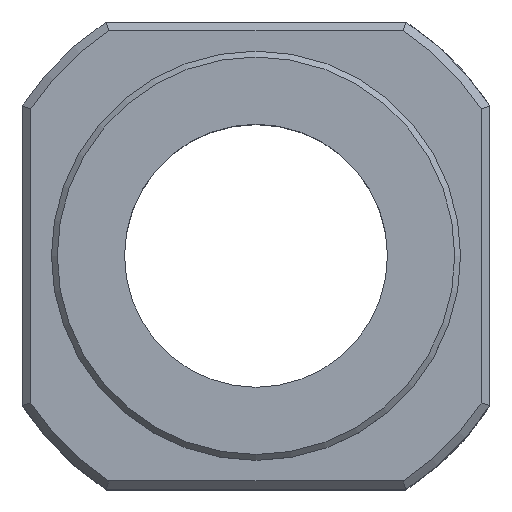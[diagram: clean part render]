
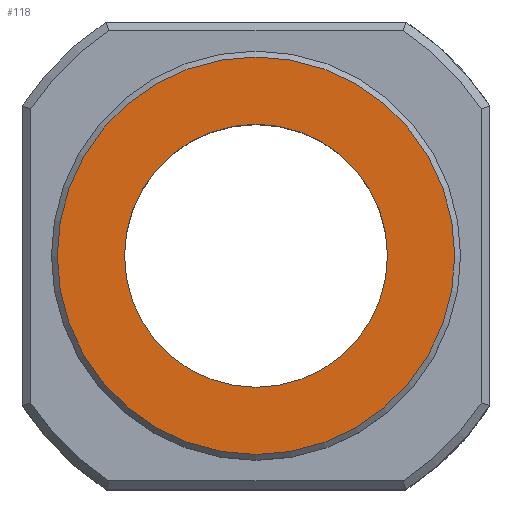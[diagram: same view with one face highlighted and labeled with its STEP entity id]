
A CAD part, top view. The second image highlights one B-rep face of the part: STEP entity #118.
In plain terms, the highlighted planar face has unit normal (0, 0, 1).
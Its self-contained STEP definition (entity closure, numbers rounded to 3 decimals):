
#118=ADVANCED_FACE('',(#246,#247),#248,.T.);
#246=FACE_OUTER_BOUND('',#439,.T.);
#247=FACE_BOUND('',#440,.T.);
#248=PLANE('',#441);
#439=EDGE_LOOP('',(#687));
#440=EDGE_LOOP('',(#688));
#441=AXIS2_PLACEMENT_3D('',#689,#690,#691);
#687=ORIENTED_EDGE('',*,*,#758,.T.);
#688=ORIENTED_EDGE('',*,*,#720,.T.);
#689=CARTESIAN_POINT('',(22.177,-7.456,12.518));
#690=DIRECTION('',(0.0,0.0,1.0));
#691=DIRECTION('',(1.0,0.0,0.0));
#720=EDGE_CURVE('',#824,#824,#825,.T.);
#758=EDGE_CURVE('',#887,#887,#888,.T.);
#824=VERTEX_POINT('',#1046);
#825=CIRCLE('',#1047,4.5);
#887=VERTEX_POINT('',#1190);
#888=CIRCLE('',#1191,6.8);
#1046=CARTESIAN_POINT('',(17.677,-7.456,12.518));
#1047=AXIS2_PLACEMENT_3D('',#1340,#1341,#1342);
#1190=CARTESIAN_POINT('',(28.977,-7.456,12.518));
#1191=AXIS2_PLACEMENT_3D('',#1371,#1372,#1373);
#1340=CARTESIAN_POINT('',(22.177,-7.456,12.518));
#1341=DIRECTION('',(0.0,0.0,-1.0));
#1342=DIRECTION('',(-1.0,0.0,0.0));
#1371=CARTESIAN_POINT('',(22.177,-7.456,12.518));
#1372=DIRECTION('',(0.0,0.0,1.0));
#1373=DIRECTION('',(1.0,0.0,0.0));
